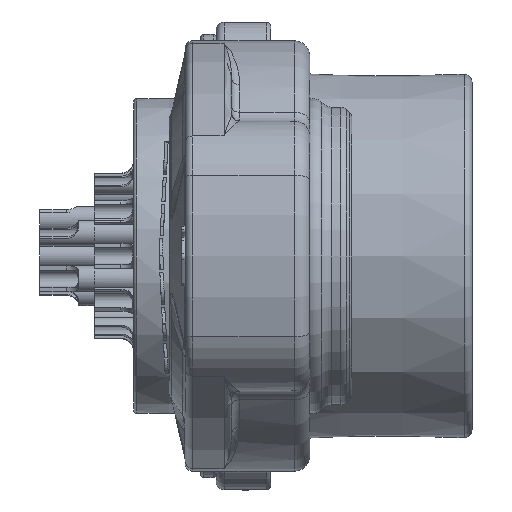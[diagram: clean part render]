
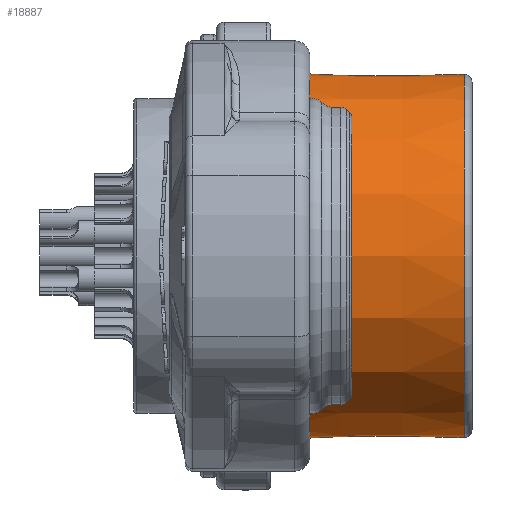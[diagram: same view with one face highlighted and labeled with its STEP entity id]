
A CAD part, front view. The second image highlights one B-rep face of the part: STEP entity #18887.
In plain terms, the highlighted conical face has half-angle 0.5 degrees and reference radius 11.65 mm.
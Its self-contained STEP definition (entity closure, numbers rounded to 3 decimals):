
#313 = DIRECTION ( 'NONE',  ( 1., 0., 0. ) ) ;
#943 = B_SPLINE_CURVE_WITH_KNOTS ( 'NONE', 3,
 ( #45696, #64208, #58076, #77369, #64629, #26793, #71601 ),
 .UNSPECIFIED., .F., .F.,
 ( 4, 3, 4 ),
 ( 0., 0.006, 0.012 ),
 .UNSPECIFIED. ) ;
#1243 = B_SPLINE_CURVE_WITH_KNOTS ( 'NONE', 3,
 ( #68342, #62156, #48601, #35848, #73708, #55597, #48182 ),
 .UNSPECIFIED., .F., .F.,
 ( 4, 3, 4 ),
 ( 0., 0.006, 0.012 ),
 .UNSPECIFIED. ) ;
#1471 = EDGE_LOOP ( 'NONE', ( #46670, #23716, #22053, #3346 ) ) ;
#3346 = ORIENTED_EDGE ( 'NONE', *, *, #62024, .T. ) ;
#3754 = DIRECTION ( 'NONE',  ( 0., 0., 1. ) ) ;
#6776 = VERTEX_POINT ( 'NONE', #12707 ) ;
#7536 = CARTESIAN_POINT ( 'NONE',  ( -12.404, 8.786, -7.814 ) ) ;
#11128 = CONICAL_SURFACE ( 'NONE', #37446, 11.65, 0.009 ) ;
#12707 = CARTESIAN_POINT ( 'NONE',  ( -12.404, 8.786, 7.814 ) ) ;
#12976 = VERTEX_POINT ( 'NONE', #47630 ) ;
#14765 = DIRECTION ( 'NONE',  ( 0., 0., -1. ) ) ;
#18887 = ADVANCED_FACE ( 'NONE', ( #34248 ), #11128, .T. ) ;
#22053 = ORIENTED_EDGE ( 'NONE', *, *, #49906, .T. ) ;
#23716 = ORIENTED_EDGE ( 'NONE', *, *, #56712, .T. ) ;
#26793 = CARTESIAN_POINT ( 'NONE',  ( -10.269, 8.776, 7.797 ) ) ;
#32332 = VERTEX_POINT ( 'NONE', #7536 ) ;
#34248 = FACE_OUTER_BOUND ( 'NONE', #1471, .T. ) ;
#35848 = CARTESIAN_POINT ( 'NONE',  ( -6.9, 8.761, -7.77 ) ) ;
#37446 = AXIS2_PLACEMENT_3D ( 'NONE', #53561, #60148, #3754 ) ;
#39061 = CIRCLE ( 'NONE', #49583, 11.654 ) ;
#45696 = CARTESIAN_POINT ( 'NONE',  ( -0.496, 8.733, 7.718 ) ) ;
#46670 = ORIENTED_EDGE ( 'NONE', *, *, #60604, .T. ) ;
#47630 = CARTESIAN_POINT ( 'NONE',  ( -0.496, 8.733, 7.718 ) ) ;
#48182 = CARTESIAN_POINT ( 'NONE',  ( -0.496, 8.733, -7.718 ) ) ;
#48601 = CARTESIAN_POINT ( 'NONE',  ( -8.735, 8.77, -7.785 ) ) ;
#49358 = CIRCLE ( 'NONE', #65087, 11.758 ) ;
#49583 = AXIS2_PLACEMENT_3D ( 'NONE', #70312, #52623, #14765 ) ;
#49906 = EDGE_CURVE ( 'NONE', #32332, #52629, #1243, .T. ) ;
#51325 = CARTESIAN_POINT ( 'NONE',  ( -12.404, 0., 0. ) ) ;
#52623 = DIRECTION ( 'NONE',  ( -1., 0., 0. ) ) ;
#52629 = VERTEX_POINT ( 'NONE', #80365 ) ;
#53561 = CARTESIAN_POINT ( 'NONE',  ( 0., 0., 0. ) ) ;
#55597 = CARTESIAN_POINT ( 'NONE',  ( -2.631, 8.742, -7.735 ) ) ;
#56712 = EDGE_CURVE ( 'NONE', #6776, #32332, #49358, .T. ) ;
#58076 = CARTESIAN_POINT ( 'NONE',  ( -4.165, 8.749, 7.747 ) ) ;
#60148 = DIRECTION ( 'NONE',  ( -1., 0., 0. ) ) ;
#60604 = EDGE_CURVE ( 'NONE', #12976, #6776, #943, .T. ) ;
#62024 = EDGE_CURVE ( 'NONE', #52629, #12976, #39061, .T. ) ;
#62156 = CARTESIAN_POINT ( 'NONE',  ( -10.57, 8.778, -7.8 ) ) ;
#64208 = CARTESIAN_POINT ( 'NONE',  ( -2.33, 8.741, 7.733 ) ) ;
#64629 = CARTESIAN_POINT ( 'NONE',  ( -8.135, 8.767, 7.78 ) ) ;
#65087 = AXIS2_PLACEMENT_3D ( 'NONE', #51325, #313, #69828 ) ;
#68342 = CARTESIAN_POINT ( 'NONE',  ( -12.404, 8.786, -7.814 ) ) ;
#69828 = DIRECTION ( 'NONE',  ( 0., 0., 1. ) ) ;
#70312 = CARTESIAN_POINT ( 'NONE',  ( -0.496, 0., 0. ) ) ;
#71601 = CARTESIAN_POINT ( 'NONE',  ( -12.404, 8.786, 7.814 ) ) ;
#73708 = CARTESIAN_POINT ( 'NONE',  ( -4.765, 8.752, -7.752 ) ) ;
#77369 = CARTESIAN_POINT ( 'NONE',  ( -6., 8.757, 7.762 ) ) ;
#80365 = CARTESIAN_POINT ( 'NONE',  ( -0.496, 8.733, -7.718 ) ) ;
